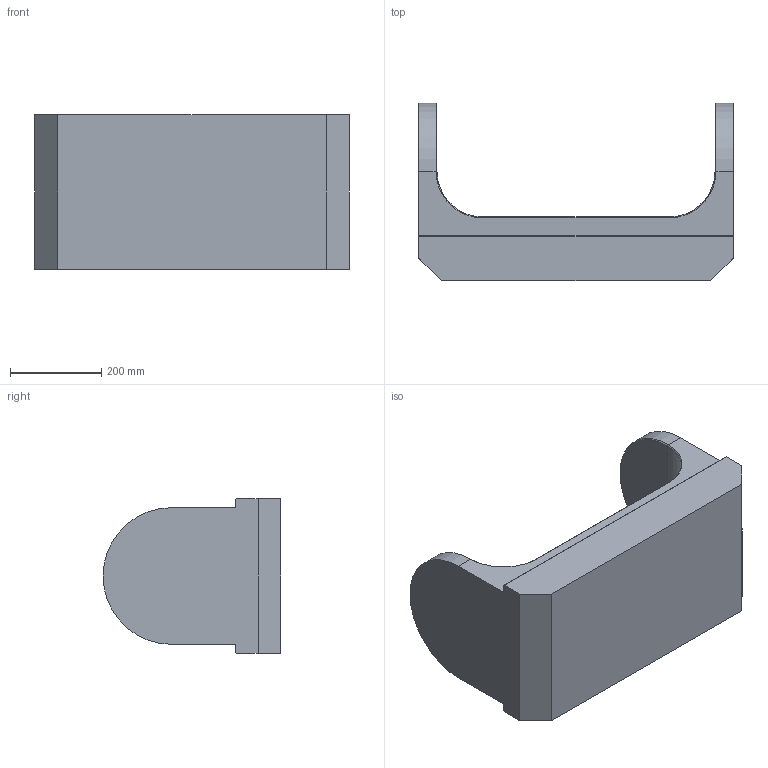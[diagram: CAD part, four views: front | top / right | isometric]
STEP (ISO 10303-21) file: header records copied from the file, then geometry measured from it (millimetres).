
FILE_DESCRIPTION (( 'STEP AP203' ), '1' );
FILE_NAME ('table.STEP', '2009-12-04T11:17:08', ( 'Famille Couzi' ), ( '' ), 'SwSTEP 2.0', 'SolidWorks 2005143', '' );
FILE_SCHEMA (( 'CONFIG_CONTROL_DESIGN' ));
Length unit declared in the file: millimetre
Products named in the file (1): table
Bounding box: 690 x 390 x 340 mm (x, y, z)
Volume: 36753287.8 mm3; surface area: 1009390.2 mm2
Topology: 1 solids, 1 shells, 38 faces, 88 edges, 54 vertices
Faces by surface type: plane 20, cylinder 10, cone 8
Entity records: 1145 total; most frequent: DIRECTION 194, CARTESIAN_POINT 181, ORIENTED_EDGE 176, EDGE_CURVE 88, AXIS2_PLACEMENT_3D 67, VECTOR 60, LINE 60, VERTEX_POINT 54
